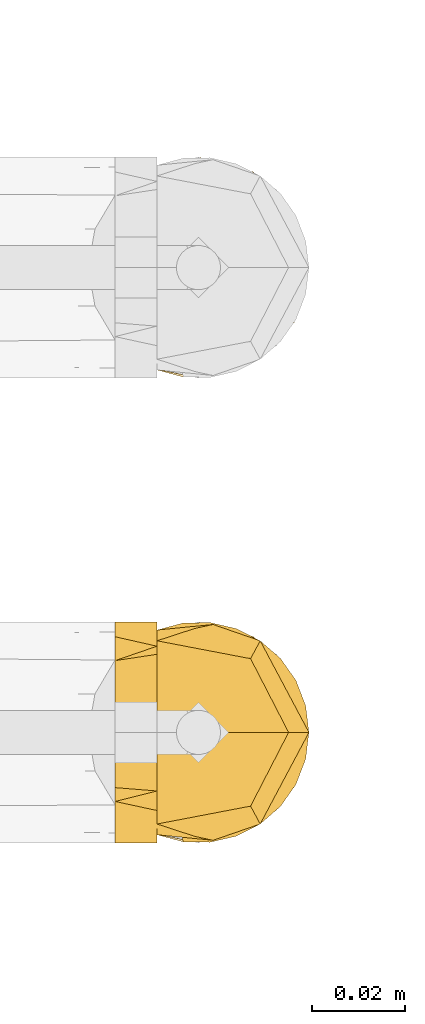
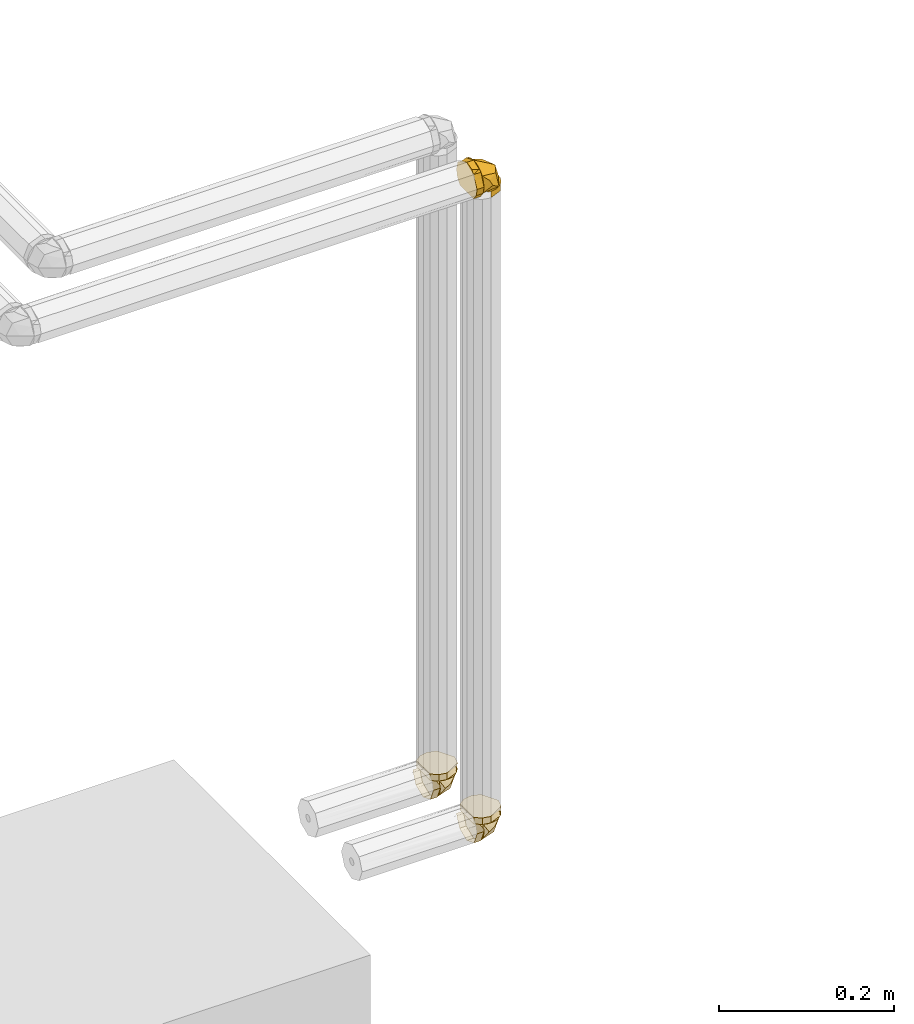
# One storey, part 391 of 652: 3 coverings.
"""IFC2X3 building model written with IfcOpenShell, lengths in millimetres."""

from ifc_helpers import new_model, entity, si_unit, converted_unit, direction, frame, origin, place, context, subcontext, project, spatial, face_set, surface_model, material, type_object, element, save


model = new_model("IFC2X3")

# Units and contexts
model_context = context("Model", 3, precision=0.01, world=frame((0.0, 0.0, 308426.39999999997)), true_north=direction((6.123233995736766e-17, 1.0)))
plan_context = context("Plan", 3, precision=0.01, world=frame((0.0, 0.0, 308426.39999999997)), true_north=direction((6.123233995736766e-17, 1.0)))
body_context = subcontext(model_context, "Body", "Model", "MODEL_VIEW")
ifc_project = project(units=[si_unit("LENGTHUNIT", "METRE", prefix="MILLI"), si_unit("AREAUNIT", "SQUARE_METRE"), si_unit("VOLUMEUNIT", "CUBIC_METRE"), converted_unit("PLANEANGLEUNIT", "DEGREE", entity("IfcPlaneAngleMeasure", 0.017453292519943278), si_unit("PLANEANGLEUNIT", "RADIAN"), dimensions=[0, 0, 0, 0, 0, 0, 0])], contexts=[model_context, plan_context])

# Site, building, storey
site_placement = place(None, origin())
site = spatial("IfcSite", under=ifc_project, at=site_placement, Name="Default", CompositionType="ELEMENT")
building_placement = place(site_placement, origin())
building = spatial("IfcBuilding", under=site, at=building_placement, CompositionType="ELEMENT")
storey_placement = place(building_placement, frame((0.0, 0.0, 1730.6999999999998)))
storey = spatial("IfcBuildingStorey", under=building, at=storey_placement, Name="EG_Produktion_FFB", CompositionType="ELEMENT", Elevation=1730.6999999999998)

# Coverings
ifc_material = material(Name="Dämmung - Armaflex-Schlauch")
covering_type = type_object("IfcCoveringType", Name="Rohrdämmung außen:Armaflex-Schlauch", PredefinedType="INSULATION")
covering_1_placement = place(storey_placement, frame((58824.973262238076, 61844.678785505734, 2674.642227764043)))
element("IfcCovering", 1, at=covering_1_placement, inside=storey, type_object=covering_type, material=ifc_material, Name="Rohrdämmung außen:Armaflex-Schlauch", ObjectType="Rohrdämmung außen:Armaflex-Schlauch", PredefinedType="INSULATION", context=body_context, shape_type="SurfaceModel", body=[
    surface_model("IfcFaceBasedSurfaceModel", [(10.458420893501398, 47.37827577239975, 34.288272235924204), (10.458420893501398, 48.88520354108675, 28.691896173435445), (10.458420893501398, 48.99253247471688, 22.89717988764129), (10.458420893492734, 47.69387779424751, 17.248839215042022), (10.458420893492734, 45.066493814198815, 12.082882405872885), (10.458420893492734, 41.266678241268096, 7.706621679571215), (10.458420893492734, 36.520474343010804, 4.38039184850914), (10.458420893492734, 31.110224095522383, 2.3020635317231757), (10.458420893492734, 25.357772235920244, 1.595272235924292), (10.458420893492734, 19.605320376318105, 2.3020635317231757), (10.458420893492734, 14.195070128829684, 4.38039184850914), (10.458420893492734, 9.44886623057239, 7.706621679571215), (10.458420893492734, 5.649050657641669, 12.082882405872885), (10.458420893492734, 3.0216666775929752, 17.248839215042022), (10.458420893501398, 1.7230119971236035, 22.89717988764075), (10.458420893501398, 1.8303409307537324, 28.691896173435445), (10.458420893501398, 3.3372686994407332, 34.288272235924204), (16.054796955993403, 1.8303409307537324, 34.28827223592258), (21.849513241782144, 1.7230119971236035, 34.28827223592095), (27.4978539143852, 3.0216666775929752, 34.28827223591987), (32.6638107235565, 5.649050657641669, 34.28827223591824), (37.040071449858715, 9.44886623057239, 34.28827223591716), (40.36630128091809, 14.195070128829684, 34.28827223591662), (42.44462959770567, 19.605320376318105, 34.288272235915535), (43.151420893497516, 25.357772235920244, 34.288272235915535), (42.44462959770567, 31.110224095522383, 34.288272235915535), (40.36630128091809, 36.520474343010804, 34.28827223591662), (37.04007144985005, 41.266678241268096, 34.28827223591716), (32.6638107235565, 45.066493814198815, 34.28827223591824), (27.4978539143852, 47.69387779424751, 34.28827223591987), (21.849513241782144, 48.99253247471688, 34.28827223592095), (16.054796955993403, 48.88520354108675, 34.28827223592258), (25.36481149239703, 47.71546498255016, 26.166056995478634), (27.880936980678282, 41.21818715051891, 14.15167406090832), (21.43016793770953, 46.23648549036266, 34.28823564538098), (10.45874459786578, 35.09763050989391, 6.778286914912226), (26.80658395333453, 25.358690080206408, 5.97542894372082), (37.90823190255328, 35.21390248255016, 34.28823564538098), (35.60604684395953, 25.358690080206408, 21.2201379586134), (17.53738229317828, 48.57587758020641, 22.222983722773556), (10.45874459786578, 46.222532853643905, 23.185715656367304), (25.36481149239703, 2.9972642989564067, 26.166056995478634), (17.53738229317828, 2.1415025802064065, 22.222983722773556), (27.880936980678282, 9.499193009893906, 14.15167406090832), (10.45874459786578, 15.619749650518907, 6.778286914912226), (21.43016793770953, 4.480894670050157, 34.28823564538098), (37.96869332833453, 15.619749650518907, 34.28823564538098), (34.97817819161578, 25.358690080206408, 20.131832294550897), (10.45874459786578, 4.494847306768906, 23.185715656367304), (1.4406903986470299, 49.12003041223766, 25.357676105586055), (10.45874459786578, 49.12003041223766, 25.357676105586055), (10.45874459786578, 42.16231556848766, 8.555213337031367), (1.4406903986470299, 42.16231556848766, 8.555213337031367), (10.45874459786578, 25.358690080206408, 1.5951730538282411), (1.4406903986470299, 25.358690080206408, 1.5951730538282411), (10.45874459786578, 8.555064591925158, 8.555213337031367), (1.4406903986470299, 8.555064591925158, 8.555213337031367), (10.45874459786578, 1.5973497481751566, 25.357676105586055), (1.4406903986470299, 1.5973497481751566, 25.357676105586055), (24.53365305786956, 4.56558473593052, 43.30802223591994), (29.67838522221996, 7.5358972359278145, 43.308022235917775), (34.82311738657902, 10.506209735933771, 43.308022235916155), (39.967849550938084, 13.476522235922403, 43.30802223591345), (41.55963522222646, 19.417147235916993, 43.30802223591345), (43.15142089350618, 25.357772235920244, 43.30802223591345), (40.181108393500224, 30.502504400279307, 43.3080222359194), (37.210795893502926, 35.6472365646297, 43.308022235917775), (34.240483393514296, 40.79196872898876, 43.30802223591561), (31.27017089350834, 45.936700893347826, 43.30802223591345), (25.32954589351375, 47.528486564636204, 43.30802223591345), (19.388920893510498, 49.12027223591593, 43.30802223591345), (14.510241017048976, 48.07242355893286, 43.308022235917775), (9.631561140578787, 47.024574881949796, 43.30802223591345), (5.6134166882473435, 44.06585567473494, 43.30802223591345), (1.5952722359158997, 41.10713646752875, 43.30802223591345), (1.5952722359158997, 9.608408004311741, 43.30802223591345), (5.6134166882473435, 6.649688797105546, 43.308022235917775), (9.631561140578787, 3.690969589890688, 43.30802223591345), (14.510241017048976, 2.643120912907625, 43.30802223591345), (19.388920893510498, 1.5952722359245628, 43.30802223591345), (36.19154578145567, 8.55514734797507, 34.2882722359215), (31.990889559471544, 6.81517856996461, 34.2882722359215), (27.790233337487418, 5.075209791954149, 34.2882722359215), (23.58957711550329, 3.335241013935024, 34.2882722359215), (19.388920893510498, 1.5952722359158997, 34.2882722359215), (14.510241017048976, 2.643120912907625, 34.2882722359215), (9.631561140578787, 3.690969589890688, 34.2882722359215), (5.5047975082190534, 6.729669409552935, 34.2882722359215), (1.5952722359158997, 9.608408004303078, 34.2882722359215), (1.5952722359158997, 41.10713646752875, 34.2882722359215), (5.6134166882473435, 44.06585567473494, 34.2882722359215), (9.631561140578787, 47.024574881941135, 34.2882722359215), (14.642122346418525, 48.10074918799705, 34.2882722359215), (19.388920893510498, 49.12027223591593, 34.2882722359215), (23.589577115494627, 47.38030345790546, 34.2882722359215), (27.790233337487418, 45.64033467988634, 34.2882722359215), (31.990889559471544, 43.90036590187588, 34.2882722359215), (36.19154578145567, 42.160397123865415, 34.2882722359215), (37.9315145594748, 37.95974090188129, 34.2882722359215), (39.671483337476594, 33.759084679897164, 34.2882722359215), (41.41145211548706, 29.558428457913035, 34.2882722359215), (43.15142089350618, 25.357772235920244, 34.2882722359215), (41.41145211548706, 21.157116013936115, 34.2882722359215), (39.671483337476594, 16.956459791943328, 34.2882722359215), (37.93151455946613, 12.755803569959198, 34.2882722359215)], [face_set([[[0, 1, 2, 3, 4, 5, 6, 7, 8, 9, 10, 11, 12, 13, 14, 15]], [[16, 17, 18, 19, 20, 21, 22, 23, 24, 25, 26, 27, 28, 29, 30, 31]], [[32, 28, 33]], [[32, 34, 28]], [[33, 35, 4]], [[35, 33, 36]], [[36, 8, 35]], [[33, 37, 38]], [[39, 4, 40]], [[32, 33, 39]], [[34, 32, 0]], [[4, 39, 33]], [[38, 36, 33]], [[0, 32, 39]], [[33, 28, 37]], [[37, 24, 38]], [[0, 39, 40]], [[41, 16, 42]], [[43, 44, 36]], [[20, 45, 41]], [[46, 43, 47]], [[44, 8, 36]], [[12, 43, 42]], [[44, 43, 12]], [[42, 16, 48]], [[20, 43, 46]], [[16, 41, 45]], [[43, 41, 42]], [[43, 36, 47]], [[47, 24, 46]], [[20, 41, 43]], [[48, 12, 42]]]), face_set([[[49, 50, 51, 52]], [[53, 54, 52, 51]], [[54, 53, 55, 56]], [[57, 58, 56, 55]]]), face_set([[[59, 60, 61, 62, 63, 64, 65, 66, 67, 68, 69, 70, 71, 72, 73, 74, 75, 76, 77, 78, 79]], [[80, 81, 82, 83, 84, 85, 86, 87, 88, 89, 90, 91, 92, 93, 94, 95, 96, 97, 98, 99, 100, 101, 102, 103, 104]], [[75, 74, 89, 88]], [[71, 70, 93, 92, 91, 72]], [[73, 72, 91, 90, 89, 74]], [[96, 67, 97]], [[64, 100, 65]], [[100, 99, 65]], [[69, 95, 94]], [[94, 93, 70]], [[67, 96, 68]], [[66, 99, 98]], [[64, 101, 100]], [[99, 66, 65]], [[70, 69, 94]], [[98, 97, 67]], [[96, 95, 68]], [[69, 68, 95]], [[66, 98, 67]], [[104, 61, 80]], [[79, 83, 59]], [[83, 82, 59]], [[63, 103, 102]], [[102, 101, 64]], [[61, 104, 62]], [[60, 82, 81]], [[79, 84, 83]], [[82, 60, 59]], [[64, 63, 102]], [[81, 80, 61]], [[104, 103, 62]], [[63, 62, 103]], [[60, 81, 61]], [[76, 75, 88, 87, 86, 77]], [[78, 77, 86, 85, 84, 79]]])]),
])
covering_2_placement = place(storey_placement, frame((58824.973262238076, 61844.678785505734, 3625.357772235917)))
element("IfcCovering", 2, at=covering_2_placement, inside=storey, type_object=covering_type, material=ifc_material, Name="Rohrdämmung außen:Armaflex-Schlauch", ObjectType="Rohrdämmung außen:Armaflex-Schlauch", PredefinedType="INSULATION", context=body_context, shape_type="SurfaceModel", body=[
    surface_model("IfcFaceBasedSurfaceModel", [(10.458420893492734, 47.37827577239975, -34.28827223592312), (16.054796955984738, 48.88520354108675, -34.288272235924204), (21.84951324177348, 48.99253247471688, -34.288272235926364), (27.497853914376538, 47.69387779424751, -34.28827223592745), (32.66381072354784, 45.066493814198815, -34.28827223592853), (37.04007144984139, 41.266678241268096, -34.28827223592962), (40.36630128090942, 36.520474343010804, -34.2882722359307), (42.44462959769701, 31.110224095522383, -34.28827223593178), (43.151420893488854, 25.357772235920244, -34.28827223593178), (42.44462959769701, 19.605320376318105, -34.28827223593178), (40.36630128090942, 14.195070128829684, -34.2882722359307), (37.04007144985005, 9.44886623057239, -34.28827223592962), (32.66381072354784, 5.649050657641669, -34.28827223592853), (27.497853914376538, 3.0216666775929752, -34.28827223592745), (21.84951324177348, 1.7230119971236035, -34.288272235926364), (16.054796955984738, 1.8303409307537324, -34.288272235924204), (10.458420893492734, 3.3372686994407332, -34.28827223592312), (10.458420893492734, 1.8303409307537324, -28.691896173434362), (10.458420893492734, 1.7230119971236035, -22.897179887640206), (10.458420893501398, 3.0216666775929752, -17.248839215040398), (10.458420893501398, 5.649050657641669, -12.082882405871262), (10.458420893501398, 9.44886623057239, -7.706621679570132), (10.458420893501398, 14.195070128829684, -4.380391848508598), (10.458420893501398, 19.605320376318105, -2.302063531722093), (10.458420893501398, 25.357772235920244, -1.5952722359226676), (10.458420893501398, 31.110224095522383, -2.302063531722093), (10.458420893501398, 36.520474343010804, -4.380391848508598), (10.458420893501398, 41.266678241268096, -7.706621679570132), (10.458420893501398, 45.066493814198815, -12.082882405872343), (10.458420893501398, 47.69387779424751, -17.24883921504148), (10.458420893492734, 48.99253247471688, -22.897179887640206), (10.458420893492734, 48.88520354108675, -28.691896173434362), (18.579179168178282, 47.71546498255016, -19.38119142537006), (30.59705026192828, 41.21818715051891, -16.86739137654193), (10.45874459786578, 46.23648549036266, -23.314672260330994), (37.96869332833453, 35.09763050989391, -34.28842103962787), (38.77329537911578, 25.358690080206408, -17.941744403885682), (10.45874459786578, 35.21390248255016, -6.83893373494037), (23.52771432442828, 25.358690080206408, -9.139956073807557), (22.52312448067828, 48.57587758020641, -27.208039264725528), (21.56039254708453, 46.222532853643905, -34.28842103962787), (18.579179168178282, 2.9972642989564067, -19.38119142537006), (22.52312448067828, 2.1415025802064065, -27.208039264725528), (30.59705026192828, 9.499193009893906, -16.86739137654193), (37.96869332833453, 15.619749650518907, -34.28842103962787), (10.45874459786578, 4.480894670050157, -23.314672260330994), (10.45874459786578, 15.619749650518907, -6.777890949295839), (24.61601998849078, 25.358690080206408, -9.768406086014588), (21.56039254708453, 4.494847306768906, -34.28842103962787), (19.38843209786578, 49.12003041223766, -43.308219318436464), (19.38843209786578, 49.12003041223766, -34.28842103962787), (36.19205758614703, 42.16231556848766, -34.28842103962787), (36.19205758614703, 42.16231556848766, -43.308219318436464), (43.149772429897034, 25.358690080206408, -34.28842103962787), (43.149772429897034, 25.358690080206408, -43.308219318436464), (36.19205758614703, 8.555064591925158, -34.28842103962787), (36.19205758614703, 8.555064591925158, -43.308219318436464), (19.38843209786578, 1.5973497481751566, -34.28842103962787), (19.38843209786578, 1.5973497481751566, -43.308219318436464), (1.4386708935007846, 4.56558473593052, -20.21304007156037), (1.4386708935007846, 7.5358972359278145, -15.068307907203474), (1.4386708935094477, 10.506209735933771, -9.923575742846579), (1.4386708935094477, 13.476522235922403, -4.778843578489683), (1.4386708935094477, 19.417147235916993, -3.187057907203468), (1.4386708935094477, 25.357772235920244, -1.5952722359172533), (1.4386708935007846, 30.502504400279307, -4.565584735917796), (1.4386708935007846, 35.6472365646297, -7.535897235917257), (1.4386708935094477, 40.79196872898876, -10.506209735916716), (1.4386708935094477, 45.936700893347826, -13.47652223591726), (1.4386708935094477, 47.528486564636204, -19.417147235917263), (1.4386708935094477, 49.12027223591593, -25.357772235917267), (1.4386708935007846, 48.07242355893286, -30.236452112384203), (1.4386708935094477, 47.024574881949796, -35.11513198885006), (1.4386708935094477, 44.06585567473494, -39.13327644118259), (1.4386708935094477, 41.10713646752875, -43.151420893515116), (1.4386708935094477, 9.608408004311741, -43.151420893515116), (1.4386708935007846, 6.649688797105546, -39.13327644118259), (1.4386708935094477, 3.690969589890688, -35.11513198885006), (1.4386708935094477, 2.643120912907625, -30.236452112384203), (1.4386708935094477, 1.5952722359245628, -25.357772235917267), (10.458420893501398, 8.55514734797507, -8.555147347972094), (10.458420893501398, 6.81517856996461, -12.755803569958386), (10.458420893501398, 5.075209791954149, -16.95645979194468), (10.45842089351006, 3.335241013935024, -21.15711601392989), (10.458420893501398, 1.5952722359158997, -25.357772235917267), (10.458420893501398, 2.643120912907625, -30.236452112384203), (10.458420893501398, 3.690969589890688, -35.11513198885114), (10.458420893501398, 6.729669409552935, -39.241895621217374), (10.458420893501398, 9.608408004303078, -43.151420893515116), (10.458420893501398, 41.10713646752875, -43.151420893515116), (10.458420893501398, 44.06585567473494, -39.13327644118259), (10.458420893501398, 47.024574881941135, -35.11513198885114), (10.458420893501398, 48.10074918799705, -30.104570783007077), (10.458420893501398, 49.12027223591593, -25.357772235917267), (10.458420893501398, 47.38030345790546, -21.157116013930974), (10.458420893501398, 45.64033467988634, -16.95645979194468), (10.458420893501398, 43.90036590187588, -12.755803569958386), (10.458420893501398, 42.160397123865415, -8.555147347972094), (10.458420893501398, 37.95974090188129, -6.815178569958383), (10.458420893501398, 33.759084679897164, -5.0752097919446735), (10.458420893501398, 29.558428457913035, -3.3352410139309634), (10.458420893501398, 25.357772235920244, -1.5952722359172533), (10.458420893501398, 21.157116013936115, -3.3352410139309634), (10.458420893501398, 16.956459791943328, -5.0752097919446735), (10.458420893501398, 12.755803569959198, -6.815178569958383)], [face_set([[[0, 1, 2, 3, 4, 5, 6, 7, 8, 9, 10, 11, 12, 13, 14, 15]], [[16, 17, 18, 19, 20, 21, 22, 23, 24, 25, 26, 27, 28, 29, 30, 31]], [[32, 28, 33]], [[32, 34, 28]], [[33, 35, 4]], [[35, 33, 36]], [[36, 8, 35]], [[33, 37, 38]], [[39, 4, 40]], [[32, 33, 39]], [[34, 32, 0]], [[4, 39, 33]], [[38, 36, 33]], [[0, 32, 39]], [[33, 28, 37]], [[37, 24, 38]], [[0, 39, 40]], [[41, 16, 42]], [[43, 44, 36]], [[20, 45, 41]], [[46, 43, 47]], [[44, 8, 36]], [[12, 43, 42]], [[44, 43, 12]], [[42, 16, 48]], [[20, 43, 46]], [[16, 41, 45]], [[43, 41, 42]], [[43, 36, 47]], [[47, 24, 46]], [[20, 41, 43]], [[48, 12, 42]]]), face_set([[[49, 50, 51, 52]], [[53, 54, 52, 51]], [[54, 53, 55, 56]], [[57, 58, 56, 55]]]), face_set([[[59, 60, 61, 62, 63, 64, 65, 66, 67, 68, 69, 70, 71, 72, 73, 74, 75, 76, 77, 78, 79]], [[80, 81, 82, 83, 84, 85, 86, 87, 88, 89, 90, 91, 92, 93, 94, 95, 96, 97, 98, 99, 100, 101, 102, 103, 104]], [[75, 74, 89, 88]], [[71, 70, 93, 92, 91, 72]], [[73, 72, 91, 90, 89, 74]], [[96, 67, 97]], [[64, 100, 65]], [[100, 99, 65]], [[69, 95, 94]], [[94, 93, 70]], [[67, 96, 68]], [[66, 99, 98]], [[64, 101, 100]], [[99, 66, 65]], [[70, 69, 94]], [[98, 97, 67]], [[96, 95, 68]], [[69, 68, 95]], [[66, 98, 67]], [[104, 61, 80]], [[79, 83, 59]], [[83, 82, 59]], [[63, 103, 102]], [[102, 101, 64]], [[61, 104, 62]], [[60, 82, 81]], [[79, 84, 83]], [[82, 60, 59]], [[64, 63, 102]], [[81, 80, 61]], [[104, 103, 62]], [[63, 62, 103]], [[60, 81, 61]], [[76, 75, 88, 87, 86, 77]], [[78, 77, 86, 85, 84, 79]]])]),
])
covering_3_placement = place(storey_placement, frame((58824.973262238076, 61944.67878550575, 2674.6422277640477)))
element("IfcCovering", 3, at=covering_3_placement, inside=storey, type_object=covering_type, material=ifc_material, Name="Rohrdämmung außen:Armaflex-Schlauch", ObjectType="Rohrdämmung außen:Armaflex-Schlauch", PredefinedType="INSULATION", context=body_context, shape_type="SurfaceModel", body=[
    surface_model("IfcFaceBasedSurfaceModel", [(10.458420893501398, 47.37827577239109, 34.288272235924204), (10.458420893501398, 48.88520354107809, 28.691896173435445), (10.458420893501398, 48.99253247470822, 22.89717988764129), (10.458420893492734, 47.69387779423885, 17.248839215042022), (10.458420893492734, 45.06649381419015, 12.082882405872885), (10.458420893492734, 41.266678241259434, 7.706621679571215), (10.458420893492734, 36.52047434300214, 4.38039184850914), (10.458420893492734, 31.11022409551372, 2.3020635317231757), (10.458420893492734, 25.35777223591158, 1.595272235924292), (10.458420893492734, 19.605320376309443, 2.3020635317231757), (10.458420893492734, 14.19507012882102, 4.38039184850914), (10.458420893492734, 9.448866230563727, 7.706621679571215), (10.458420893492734, 5.649050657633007, 12.082882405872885), (10.458420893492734, 3.0216666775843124, 17.248839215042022), (10.458420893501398, 1.7230119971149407, 22.89717988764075), (10.458420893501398, 1.8303409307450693, 28.691896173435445), (10.458420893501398, 3.3372686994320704, 34.288272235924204), (16.054796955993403, 1.8303409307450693, 34.28827223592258), (21.849513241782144, 1.7230119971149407, 34.28827223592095), (27.4978539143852, 3.0216666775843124, 34.28827223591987), (32.6638107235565, 5.649050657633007, 34.28827223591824), (37.040071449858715, 9.448866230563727, 34.28827223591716), (40.36630128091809, 14.19507012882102, 34.28827223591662), (42.44462959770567, 19.605320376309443, 34.288272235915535), (43.151420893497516, 25.35777223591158, 34.288272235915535), (42.44462959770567, 31.11022409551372, 34.288272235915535), (40.36630128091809, 36.52047434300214, 34.28827223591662), (37.04007144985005, 41.266678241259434, 34.28827223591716), (32.6638107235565, 45.06649381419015, 34.28827223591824), (27.4978539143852, 47.69387779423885, 34.28827223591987), (21.849513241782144, 48.99253247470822, 34.28827223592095), (16.054796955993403, 48.88520354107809, 34.28827223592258), (25.36481149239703, 47.718663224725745, 26.1660569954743), (27.880936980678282, 41.216734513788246, 14.151674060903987), (21.43016793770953, 46.23503285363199, 34.288235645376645), (10.45874459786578, 35.09617787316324, 6.778286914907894), (26.80658395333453, 25.357237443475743, 5.975428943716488), (37.90823190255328, 35.21244984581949, 34.288235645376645), (35.60604684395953, 25.357237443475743, 21.220137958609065), (17.53738229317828, 48.57442494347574, 22.22298372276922), (10.45874459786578, 46.22108021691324, 23.185715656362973), (25.36481149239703, 3.0004625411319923, 26.1660569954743), (17.53738229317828, 2.1400499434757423, 22.22298372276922), (27.880936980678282, 9.497740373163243, 14.151674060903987), (10.45874459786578, 15.618297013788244, 6.778286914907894), (21.43016793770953, 4.479442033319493, 34.288235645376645), (37.96869332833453, 15.618297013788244, 34.288235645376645), (34.97817819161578, 25.357237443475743, 20.131832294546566), (10.45874459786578, 4.493394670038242, 23.185715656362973), (1.4406903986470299, 49.11857777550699, 25.357676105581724), (10.45874459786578, 49.11857777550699, 25.357676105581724), (10.45874459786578, 42.160862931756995, 8.555213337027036), (1.4406903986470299, 42.160862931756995, 8.555213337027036), (10.45874459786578, 25.357237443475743, 1.5951730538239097), (1.4406903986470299, 25.357237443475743, 1.5951730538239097), (10.45874459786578, 8.553611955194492, 8.555213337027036), (1.4406903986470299, 8.553611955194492, 8.555213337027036), (10.45874459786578, 1.5958971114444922, 25.357676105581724), (1.4406903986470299, 1.5958971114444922, 25.357676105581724), (24.53365305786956, 4.565584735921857, 43.30802223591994), (29.67838522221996, 7.535897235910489, 43.308022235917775), (34.82311738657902, 10.506209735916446, 43.308022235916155), (39.967849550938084, 13.47652223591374, 43.30802223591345), (41.55963522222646, 19.417147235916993, 43.30802223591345), (43.15142089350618, 25.35777223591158, 43.30802223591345), (40.181108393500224, 30.50250440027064, 43.3080222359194), (37.210795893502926, 35.6472365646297, 43.308022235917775), (34.240483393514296, 40.7919687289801, 43.30802223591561), (31.27017089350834, 45.936700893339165, 43.30802223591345), (25.32954589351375, 47.52848656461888, 43.30802223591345), (19.388920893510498, 49.12027223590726, 43.30802223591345), (14.510241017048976, 48.0724235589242, 43.308022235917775), (9.631561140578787, 47.024574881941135, 43.30802223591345), (5.6134166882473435, 44.06585567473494, 43.30802223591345), (1.5952722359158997, 41.107136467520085, 43.30802223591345), (1.5952722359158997, 9.608408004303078, 43.30802223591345), (5.6134166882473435, 6.64968879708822, 43.308022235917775), (9.631561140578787, 3.690969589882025, 43.30802223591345), (14.510241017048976, 2.6431209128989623, 43.30802223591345), (19.388920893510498, 1.5952722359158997, 43.30802223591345), (36.19154578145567, 8.55514734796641, 34.2882722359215), (31.990889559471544, 6.815178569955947, 34.2882722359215), (27.790233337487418, 5.075209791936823, 34.2882722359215), (23.58957711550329, 3.335241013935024, 34.2882722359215), (19.388920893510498, 1.5952722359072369, 34.2882722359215), (14.510241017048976, 2.6431209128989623, 34.2882722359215), (9.631561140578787, 3.690969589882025, 34.2882722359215), (5.5047975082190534, 6.729669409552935, 34.2882722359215), (1.5952722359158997, 9.608408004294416, 34.2882722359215), (1.5952722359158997, 41.107136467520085, 34.2882722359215), (5.6134166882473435, 44.06585567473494, 34.2882722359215), (9.631561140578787, 47.02457488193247, 34.2882722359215), (14.642122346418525, 48.10074918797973, 34.2882722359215), (19.388920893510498, 49.12027223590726, 34.2882722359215), (23.589577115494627, 47.3803034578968, 34.2882722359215), (27.790233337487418, 45.64033467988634, 34.2882722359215), (31.990889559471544, 43.90036590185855, 34.2882722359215), (36.19154578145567, 42.160397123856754, 34.2882722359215), (37.9315145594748, 37.95974090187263, 34.2882722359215), (39.671483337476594, 33.759084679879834, 34.2882722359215), (41.41145211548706, 29.558428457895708, 34.2882722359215), (43.15142089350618, 25.35777223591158, 34.2882722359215), (41.41145211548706, 21.157116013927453, 34.2882722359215), (39.671483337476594, 16.956459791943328, 34.2882722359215), (37.93151455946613, 12.755803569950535, 34.2882722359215)], [face_set([[[0, 1, 2, 3, 4, 5, 6, 7, 8, 9, 10, 11, 12, 13, 14, 15]], [[16, 17, 18, 19, 20, 21, 22, 23, 24, 25, 26, 27, 28, 29, 30, 31]], [[32, 28, 33]], [[32, 34, 28]], [[33, 35, 4]], [[35, 33, 36]], [[36, 8, 35]], [[33, 37, 38]], [[39, 4, 40]], [[32, 33, 39]], [[34, 32, 0]], [[4, 39, 33]], [[38, 36, 33]], [[0, 32, 39]], [[33, 28, 37]], [[37, 24, 38]], [[0, 39, 40]], [[41, 16, 42]], [[43, 44, 36]], [[20, 45, 41]], [[46, 43, 47]], [[44, 8, 36]], [[12, 43, 42]], [[44, 43, 12]], [[42, 16, 48]], [[20, 43, 46]], [[16, 41, 45]], [[43, 41, 42]], [[43, 36, 47]], [[47, 24, 46]], [[20, 41, 43]], [[48, 12, 42]]]), face_set([[[49, 50, 51, 52]], [[53, 54, 52, 51]], [[54, 53, 55, 56]], [[57, 58, 56, 55]]]), face_set([[[59, 60, 61, 62, 63, 64, 65, 66, 67, 68, 69, 70, 71, 72, 73, 74, 75, 76, 77, 78, 79]], [[80, 81, 82, 83, 84, 85, 86, 87, 88, 89, 90, 91, 92, 93, 94, 95, 96, 97, 98, 99, 100, 101, 102, 103, 104]], [[75, 74, 89, 88]], [[71, 70, 93, 92, 91, 72]], [[73, 72, 91, 90, 89, 74]], [[96, 67, 97]], [[64, 100, 65]], [[100, 99, 65]], [[69, 95, 94]], [[94, 93, 70]], [[67, 96, 68]], [[66, 99, 98]], [[64, 101, 100]], [[99, 66, 65]], [[70, 69, 94]], [[98, 97, 67]], [[96, 95, 68]], [[69, 68, 95]], [[66, 98, 67]], [[104, 61, 80]], [[79, 83, 59]], [[83, 82, 59]], [[63, 103, 102]], [[102, 101, 64]], [[61, 104, 62]], [[60, 82, 81]], [[79, 84, 83]], [[82, 60, 59]], [[64, 63, 102]], [[81, 80, 61]], [[104, 103, 62]], [[63, 62, 103]], [[60, 81, 61]], [[76, 75, 88, 87, 86, 77]], [[78, 77, 86, 85, 84, 79]]])]),
])

save(model, "model.ifc")
